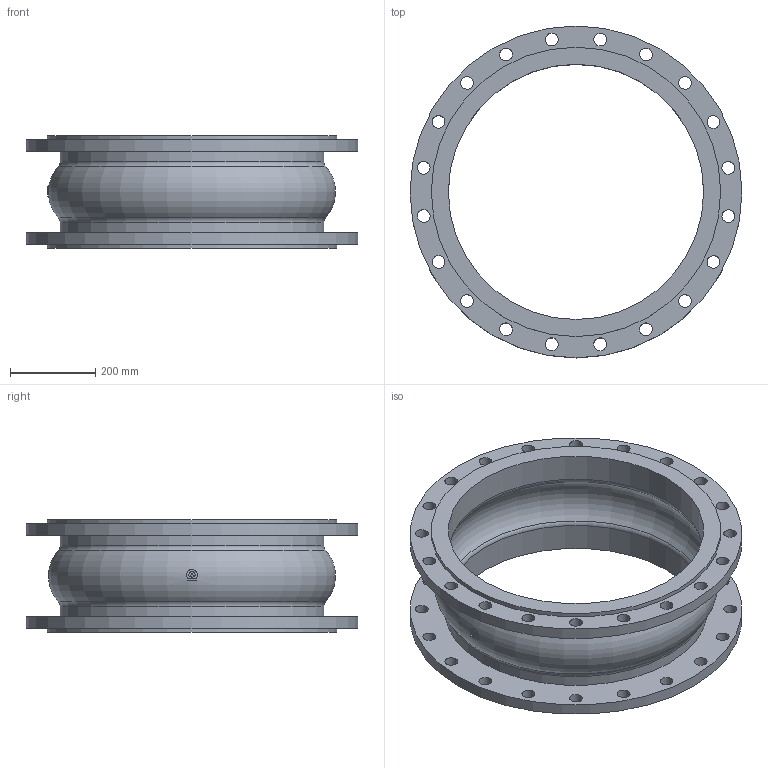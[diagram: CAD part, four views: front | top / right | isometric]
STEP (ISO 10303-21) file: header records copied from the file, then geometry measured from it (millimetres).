
FILE_DESCRIPTION(('STEP AP203'), '1');
FILE_NAME('Êîìïåíñàòîð KMS DN600 PN10_L265', '', ('UNSPECIFIED'), ('UNSPECIFIED'), 'ASCON STEP Converter 1.6', 'ASCON Math Kernel', '');
FILE_SCHEMA(('CONFIG_CONTROL_DESIGN'));
Length unit declared in the file: millimetre
Bounding box: 780 x 780 x 265 mm (x, y, z)
Volume: 15496400.4 mm3; surface area: 1920823 mm2
Topology: 1 solids, 1 shells, 77 faces, 196 edges, 128 vertices
Faces by surface type: cylinder 55, plane 13, torus 9
Full cylindrical faces by diameter (mm): 30 x40, 600 x2, 620 x2, 680 x2, 780 x2
Entity records: 3956 total; most frequent: CARTESIAN_POINT 1431, DIRECTION 382, ORIENTED_EDGE 284, EDGE_LOOP 220, AXIS2_PLACEMENT_3D 184, EDGE_CURVE 142, VERTEX_POINT 128, FACE_BOUND 112
